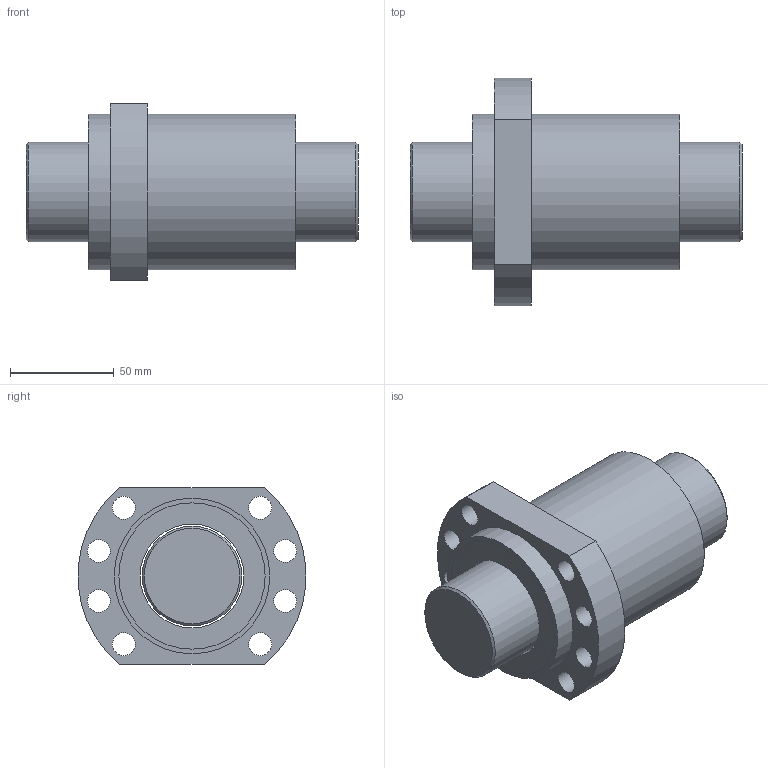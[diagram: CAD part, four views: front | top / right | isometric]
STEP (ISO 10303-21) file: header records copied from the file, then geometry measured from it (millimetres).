
FILE_DESCRIPTION(/* description */ (''),/* implementation_level */ '2;1');
FILE_NAME(/* name */ 'SFH5020.stp',/* time_stamp */ '2015-11-23T09:54:37+08:00',/* author */ (''),/* organization */ (''),/* preprocessor_version */ 'ST-DEVELOPER v11',/* originating_system */ 'SIEMENS UGS NX 6.0',/* authorisation */ '');
FILE_SCHEMA (('CONFIG_CONTROL_DESIGN'));
Length unit declared in the file: millimetre
Products named in the file (1): fann7DDE8qxp
Bounding box: 160 x 109.65 x 85 mm (x, y, z)
Volume: 591196.8 mm3; surface area: 99985.8 mm2
Topology: 4 solids, 4 shells, 52 faces, 96 edges, 64 vertices
Faces by surface type: cylinder 28, plane 22, cone 2
Full cylindrical faces by diameter (mm): 11 x8, 48 x1, 50 x3, 67 x4, 70.5 x4, 72 x4, 75 x2
Entity records: 1284 total; most frequent: DIRECTION 230, CARTESIAN_POINT 181, ORIENTED_EDGE 132, EDGE_LOOP 114, AXIS2_PLACEMENT_3D 111, FACE_BOUND 108, EDGE_CURVE 66, VERTEX_POINT 62
